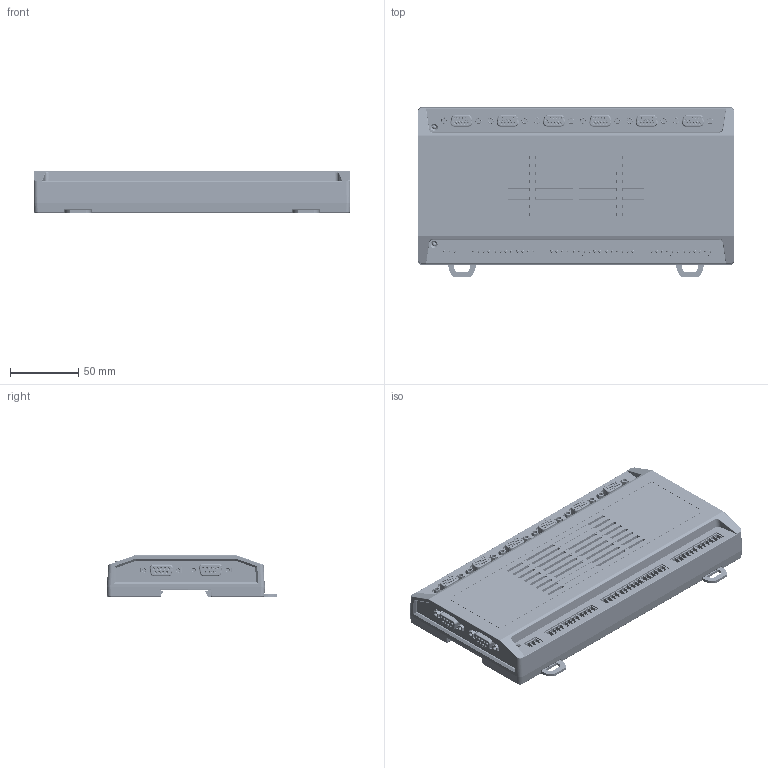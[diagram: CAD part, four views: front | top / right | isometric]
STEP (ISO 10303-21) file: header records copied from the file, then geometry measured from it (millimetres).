
FILE_DESCRIPTION (( 'STEP AP214' ), '1' );
FILE_NAME ('MC7764 -3D.2019.5.20STEP.STEP', '2019-05-20T03:13:28', ( 'xt256.com' ), ( 'xt256.com' ), 'SwSTEP 2.0', 'SolidWorks 2016', '' );
FILE_SCHEMA (( 'AUTOMOTIVE_DESIGN' ));
Length unit declared in the file: millimetre
Products named in the file (57): MC7764; MC7764 -3D.2019.5.20STEP; 3.81-6P-180; 3.81-6P-180_2; 3.81-6P-180_3; 3.81-6P-180_4; 3.81-6P-180_5; 3.81-6P-180_6; 3.81-6P-180_7; JI5; JI4; 3.81-4P-180; 3.81-4P-180_2; 3.81-4P-180_3; 3.81-4P-180_4; 3.81-4P-180_5; JI3; JI2; JI1; JO3; JO2; JO1; DB15_F_3_180; AXIS6; AXIS3; AXIS5; AXIS2; AXIS4; AXIS1; DB9-F90; COM1_1; User_Library-LED_d3-GRN_LED_d3005; User_Library-LED_d3-GRN_Cut; User_Library-LED_d3-GRN_LED_d3007; User_Library-LED_d3-GRN_Fusion001; LED_3MM_GREEN; D3; LED_3MM_GREEN-1; D44; 3.81-3P-180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
Assembly tree (102 placements, depth 4):
  MC7764 -3D.2019.5.20STEP
    JI5
      3.81-6P-180
      3.81-6P-180_2
      3.81-6P-180_3
      3.81-6P-180_4
      3.81-6P-180_5
      3.81-6P-180_6
      3.81-6P-180_7
    JI4
      3.81-6P-180
      3.81-6P-180_2
      3.81-6P-180_3
      3.81-6P-180_4
      3.81-6P-180_5
      3.81-6P-180_6
      3.81-6P-180_7
    JI3
      3.81-4P-180
      3.81-4P-180_2
      3.81-4P-180_3
      3.81-4P-180_4
      3.81-4P-180_5
    JI2
      3.81-6P-180
      3.81-6P-180_2
      3.81-6P-180_3
      3.81-6P-180_4
      3.81-6P-180_5
      3.81-6P-180_6
      3.81-6P-180_7
    JI1
      3.81-6P-180
      3.81-6P-180_2
      3.81-6P-180_3
      3.81-6P-180_4
      3.81-6P-180_5
      3.81-6P-180_6
      3.81-6P-180_7
    JO3
      3.81-4P-180
      3.81-4P-180_2
      3.81-4P-180_3
      3.81-4P-180_4
      3.81-4P-180_5
    JO2
      3.81-4P-180
      3.81-4P-180_2
      3.81-4P-180_3
      3.81-4P-180_4
      3.81-4P-180_5
    JO1
      3.81-4P-180
      3.81-4P-180_2
      3.81-4P-180_3
      3.81-4P-180_4
      3.81-4P-180_5
    AXIS6
      DB15_F_3_180
    AXIS3
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Bounding box: 232.5 x 125 x 30.7 mm (x, y, z)
Volume: 27515.3 mm3; surface area: 199733.5 mm2
Topology: 88 solids, 90 shells, 7481 faces, 18429 edges, 11497 vertices
Faces by surface type: plane 4829, cylinder 1771, bspline 819, cone 58, sphere 4
Entity records: 113833 total; most frequent: CARTESIAN_POINT 24611, ORIENTED_EDGE 16801, DIRECTION 15920, EDGE_CURVE 8424, LINE 6634, VECTOR 6634, VERTEX_POINT 5336, AXIS2_PLACEMENT_3D 4643
